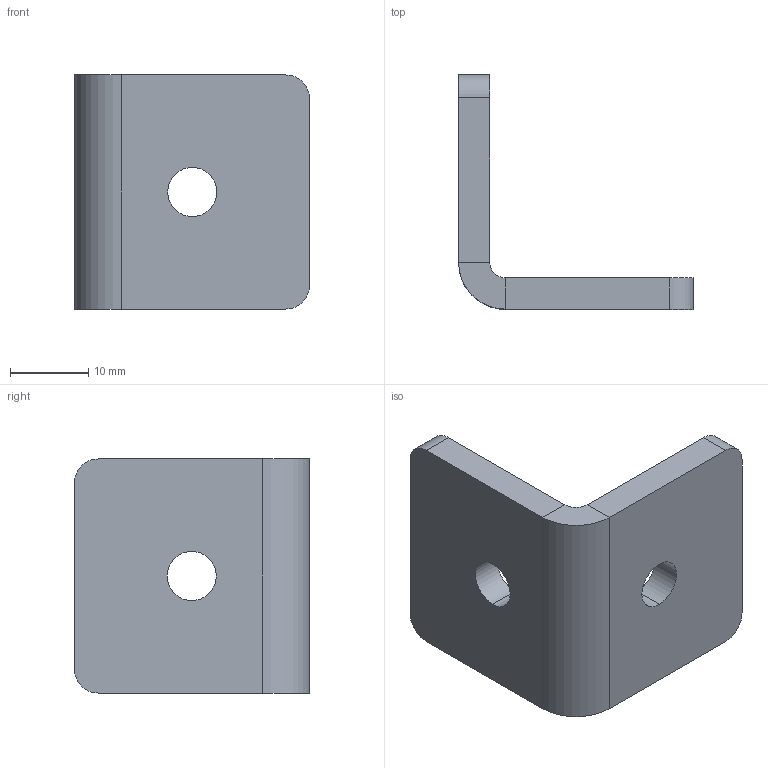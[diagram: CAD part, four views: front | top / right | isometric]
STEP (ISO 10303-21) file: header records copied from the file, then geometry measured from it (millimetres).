
FILE_DESCRIPTION (( 'STEP AP214' ), '1' );
FILE_NAME ('967-30-30-L-2-SW.step', '2023-06-26T09:08:10', ( '' ), ( '' ), 'SwSTEP 2.0', 'SolidWorks 2022', '' );
FILE_SCHEMA (( 'AUTOMOTIVE_DESIGN' ));
Length unit declared in the file: millimetre
Products named in the file (1): 967-30-30-L-2-SW
Bounding box: 30.08 x 30.08 x 30 mm (x, y, z)
Volume: 6252.8 mm3; surface area: 3939.7 mm2
Topology: 1 solids, 1 shells, 22 faces, 52 edges, 32 vertices
Faces by surface type: plane 12, cylinder 10
Entity records: 674 total; most frequent: DIRECTION 118, CARTESIAN_POINT 107, ORIENTED_EDGE 104, EDGE_CURVE 52, AXIS2_PLACEMENT_3D 43, LINE 32, VECTOR 32, VERTEX_POINT 32
